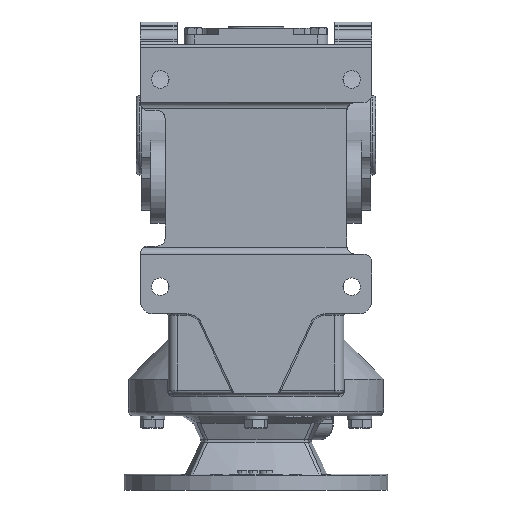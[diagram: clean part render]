
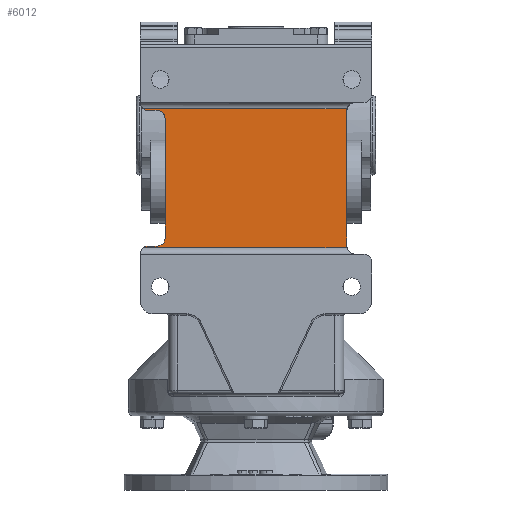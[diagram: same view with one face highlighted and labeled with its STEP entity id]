
A CAD part, front view. The second image highlights one B-rep face of the part: STEP entity #6012.
In plain terms, the highlighted planar face has unit normal (0, -1, 0).
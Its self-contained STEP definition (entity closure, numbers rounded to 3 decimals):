
#1724 = CARTESIAN_POINT ( 'NONE',  ( 80., -107., -70.5 ) ) ;
#1729 = PLANE ( 'NONE',  #3466 ) ;
#1732 = DIRECTION ( 'NONE',  ( 0., 1., 0. ) ) ;
#1733 = DIRECTION ( 'NONE',  ( -1., 0., 0. ) ) ;
#2732 = EDGE_CURVE ( 'NONE', #7797, #7799, #28807, .T. ) ;
#2733 = EDGE_CURVE ( 'NONE', #7797, #17427, #28808, .T. ) ;
#2736 = EDGE_CURVE ( 'NONE', #20196, #17427, #28812, .T. ) ;
#2739 = EDGE_CURVE ( 'NONE', #20194, #20196, #28816, .T. ) ;
#2742 = EDGE_CURVE ( 'NONE', #20191, #20194, #28822, .T. ) ;
#2744 = EDGE_CURVE ( 'NONE', #20191, #20193, #28814, .T. ) ;
#2976 = EDGE_CURVE ( 'NONE', #13296, #7799, #29180, .T. ) ;
#2995 = EDGE_CURVE ( 'NONE', #13296, #13304, #29210, .T. ) ;
#2996 = EDGE_CURVE ( 'NONE', #13304, #13288, #29213, .T. ) ;
#2997 = EDGE_CURVE ( 'NONE', #13288, #13274, #29212, .T. ) ;
#2998 = EDGE_CURVE ( 'NONE', #13284, #13274, #29215, .T. ) ;
#2999 = EDGE_CURVE ( 'NONE', #13284, #20193, #29157, .T. ) ;
#3227 = AXIS2_PLACEMENT_3D ( 'NONE', #29501, #29503, #29505 ) ;
#3229 = AXIS2_PLACEMENT_3D ( 'NONE', #29549, #29551, #29553 ) ;
#3231 = AXIS2_PLACEMENT_3D ( 'NONE', #29582, #29584, #29586 ) ;
#3288 = AXIS2_PLACEMENT_3D ( 'NONE', #27101, #27102, #27103 ) ;
#3289 = AXIS2_PLACEMENT_3D ( 'NONE', #27105, #27106, #27107 ) ;
#3290 = AXIS2_PLACEMENT_3D ( 'NONE', #27111, #27112, #27113 ) ;
#3466 = AXIS2_PLACEMENT_3D ( 'NONE', #1724, #1732, #1733 ) ;
#6012 = ADVANCED_FACE ( 'NONE', ( #15110 ), #1729, .F. ) ;
#7363 = EDGE_LOOP ( 'NONE', ( #9091, #9092, #9093, #9094, #9095, #9096, #9097, #9098, #9099, #9100, #9101, #9102 ) ) ;
#7797 = VERTEX_POINT ( 'NONE', #23025 ) ;
#7799 = VERTEX_POINT ( 'NONE', #23027 ) ;
#9091 = ORIENTED_EDGE ( 'NONE', *, *, #2996, .T. ) ;
#9092 = ORIENTED_EDGE ( 'NONE', *, *, #2997, .T. ) ;
#9093 = ORIENTED_EDGE ( 'NONE', *, *, #2998, .F. ) ;
#9094 = ORIENTED_EDGE ( 'NONE', *, *, #2999, .T. ) ;
#9095 = ORIENTED_EDGE ( 'NONE', *, *, #2744, .F. ) ;
#9096 = ORIENTED_EDGE ( 'NONE', *, *, #2742, .T. ) ;
#9097 = ORIENTED_EDGE ( 'NONE', *, *, #2739, .T. ) ;
#9098 = ORIENTED_EDGE ( 'NONE', *, *, #2736, .T. ) ;
#9099 = ORIENTED_EDGE ( 'NONE', *, *, #2733, .F. ) ;
#9100 = ORIENTED_EDGE ( 'NONE', *, *, #2732, .T. ) ;
#9101 = ORIENTED_EDGE ( 'NONE', *, *, #2976, .F. ) ;
#9102 = ORIENTED_EDGE ( 'NONE', *, *, #2995, .T. ) ;
#13274 = VERTEX_POINT ( 'NONE', #30621 ) ;
#13284 = VERTEX_POINT ( 'NONE', #30631 ) ;
#13288 = VERTEX_POINT ( 'NONE', #30635 ) ;
#13296 = VERTEX_POINT ( 'NONE', #30643 ) ;
#13304 = VERTEX_POINT ( 'NONE', #30651 ) ;
#15110 = FACE_OUTER_BOUND ( 'NONE', #7363, .T. ) ;
#17427 = VERTEX_POINT ( 'NONE', #30692 ) ;
#20191 = VERTEX_POINT ( 'NONE', #30886 ) ;
#20193 = VERTEX_POINT ( 'NONE', #30888 ) ;
#20194 = VERTEX_POINT ( 'NONE', #30889 ) ;
#20196 = VERTEX_POINT ( 'NONE', #30891 ) ;
#23025 = CARTESIAN_POINT ( 'NONE',  ( 57.101, -107., -70.5 ) ) ;
#23027 = CARTESIAN_POINT ( 'NONE',  ( 57., -107., -69.5 ) ) ;
#27028 = CARTESIAN_POINT ( 'NONE',  ( 57., -107., 16.5 ) ) ;
#27029 = DIRECTION ( 'NONE',  ( 0., 0., -1. ) ) ;
#27077 = DIRECTION ( 'NONE',  ( -1., 0., 0. ) ) ;
#27098 = CARTESIAN_POINT ( 'NONE',  ( 80., -107., 16.5 ) ) ;
#27099 = CARTESIAN_POINT ( 'NONE',  ( -57., -107., 15.5 ) ) ;
#27100 = DIRECTION ( 'NONE',  ( -1., 0., 0. ) ) ;
#27101 = CARTESIAN_POINT ( 'NONE',  ( 62., -107., 15.5 ) ) ;
#27102 = DIRECTION ( 'NONE',  ( 0., 1., 0. ) ) ;
#27103 = DIRECTION ( 'NONE',  ( -1., 0., 0. ) ) ;
#27105 = CARTESIAN_POINT ( 'NONE',  ( -67.5, -107., 20.5 ) ) ;
#27106 = DIRECTION ( 'NONE',  ( 0., -1., 0. ) ) ;
#27107 = DIRECTION ( 'NONE',  ( -1., 0., 0. ) ) ;
#27111 = CARTESIAN_POINT ( 'NONE',  ( -62., -107., 10.5 ) ) ;
#27112 = DIRECTION ( 'NONE',  ( 0., 1., 0. ) ) ;
#27113 = DIRECTION ( 'NONE',  ( -1., 0., 0. ) ) ;
#28807 = CIRCLE ( 'NONE', #3227, 5. ) ;
#28808 = LINE ( 'NONE', #29499, #28811 ) ;
#28811 = VECTOR ( 'NONE', #29492, 1000. ) ;
#28812 = CIRCLE ( 'NONE', #3229, 5. ) ;
#28814 = LINE ( 'NONE', #29580, #28827 ) ;
#28816 = LINE ( 'NONE', #29559, #28819 ) ;
#28819 = VECTOR ( 'NONE', #29562, 1000. ) ;
#28822 = CIRCLE ( 'NONE', #3231, 5. ) ;
#28827 = VECTOR ( 'NONE', #29589, 1000. ) ;
#29157 = CIRCLE ( 'NONE', #3290, 5. ) ;
#29180 = LINE ( 'NONE', #27028, #29182 ) ;
#29182 = VECTOR ( 'NONE', #27029, 1000. ) ;
#29210 = CIRCLE ( 'NONE', #3288, 5. ) ;
#29212 = CIRCLE ( 'NONE', #3289, 5. ) ;
#29213 = LINE ( 'NONE', #27098, #29214 ) ;
#29214 = VECTOR ( 'NONE', #27077, 1000. ) ;
#29215 = LINE ( 'NONE', #27099, #29217 ) ;
#29217 = VECTOR ( 'NONE', #27100, 1000. ) ;
#29492 = DIRECTION ( 'NONE',  ( -1., 0., 0. ) ) ;
#29499 = CARTESIAN_POINT ( 'NONE',  ( 80., -107., -70.5 ) ) ;
#29501 = CARTESIAN_POINT ( 'NONE',  ( 62., -107., -69.5 ) ) ;
#29503 = DIRECTION ( 'NONE',  ( 0., 1., 0. ) ) ;
#29505 = DIRECTION ( 'NONE',  ( -1., 0., 0. ) ) ;
#29549 = CARTESIAN_POINT ( 'NONE',  ( -67.5, -107., -74.5 ) ) ;
#29551 = DIRECTION ( 'NONE',  ( 0., -1., 0. ) ) ;
#29553 = DIRECTION ( 'NONE',  ( -1., 0., 0. ) ) ;
#29559 = CARTESIAN_POINT ( 'NONE',  ( -57., -107., -69.5 ) ) ;
#29562 = DIRECTION ( 'NONE',  ( -1., 0., 0. ) ) ;
#29580 = CARTESIAN_POINT ( 'NONE',  ( -57., -107., -69.5 ) ) ;
#29582 = CARTESIAN_POINT ( 'NONE',  ( -62., -107., -64.5 ) ) ;
#29584 = DIRECTION ( 'NONE',  ( 0., 1., 0. ) ) ;
#29586 = DIRECTION ( 'NONE',  ( -1., 0., 0. ) ) ;
#29589 = DIRECTION ( 'NONE',  ( 0., 0., 1. ) ) ;
#30621 = CARTESIAN_POINT ( 'NONE',  ( -67.5, -107., 15.5 ) ) ;
#30631 = CARTESIAN_POINT ( 'NONE',  ( -62., -107., 15.5 ) ) ;
#30635 = CARTESIAN_POINT ( 'NONE',  ( -70.5, -107., 16.5 ) ) ;
#30643 = CARTESIAN_POINT ( 'NONE',  ( 57., -107., 15.5 ) ) ;
#30651 = CARTESIAN_POINT ( 'NONE',  ( 57.101, -107., 16.5 ) ) ;
#30692 = CARTESIAN_POINT ( 'NONE',  ( -70.5, -107., -70.5 ) ) ;
#30886 = CARTESIAN_POINT ( 'NONE',  ( -57., -107., -64.5 ) ) ;
#30888 = CARTESIAN_POINT ( 'NONE',  ( -57., -107., 10.5 ) ) ;
#30889 = CARTESIAN_POINT ( 'NONE',  ( -62., -107., -69.5 ) ) ;
#30891 = CARTESIAN_POINT ( 'NONE',  ( -67.5, -107., -69.5 ) ) ;
